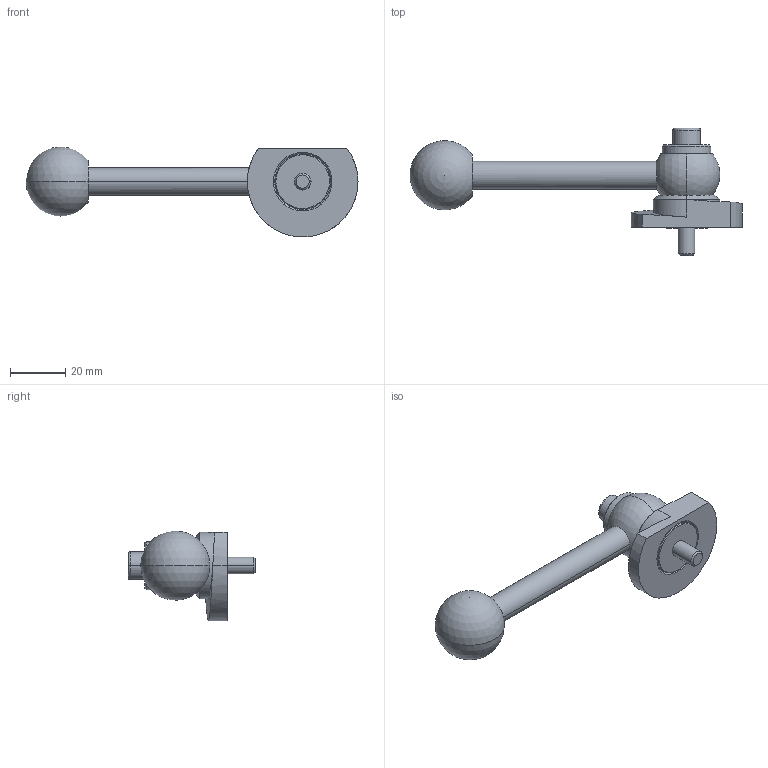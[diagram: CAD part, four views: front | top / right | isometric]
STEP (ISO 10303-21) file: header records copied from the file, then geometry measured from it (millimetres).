
FILE_DESCRIPTION (( 'STEP AP214' ), '1' );
FILE_NAME ('918.1-40-GVS-L-10.step', '2024-05-15T12:59:14', ( '' ), ( '' ), 'SwSTEP 2.0', 'SolidWorks 2022', '' );
FILE_SCHEMA (( 'AUTOMOTIVE_DESIGN' ));
Length unit declared in the file: millimetre
Products named in the file (1): 918.1-40-GVS-L-10
Bounding box: 120 x 46 x 32.5 mm (x, y, z)
Volume: 29793.7 mm3; surface area: 10951.2 mm2
Topology: 1 solids, 1 shells, 62 faces, 141 edges, 89 vertices
Faces by surface type: plane 20, cylinder 19, cone 14, sphere 4, bspline 3, torus 2
Entity records: 2071 total; most frequent: CARTESIAN_POINT 688, DIRECTION 300, ORIENTED_EDGE 262, EDGE_CURVE 131, AXIS2_PLACEMENT_3D 123, VERTEX_POINT 83, EDGE_LOOP 74, CIRCLE 63
